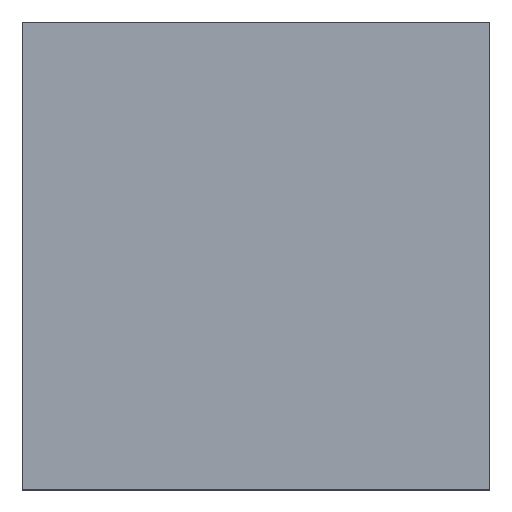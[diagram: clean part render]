
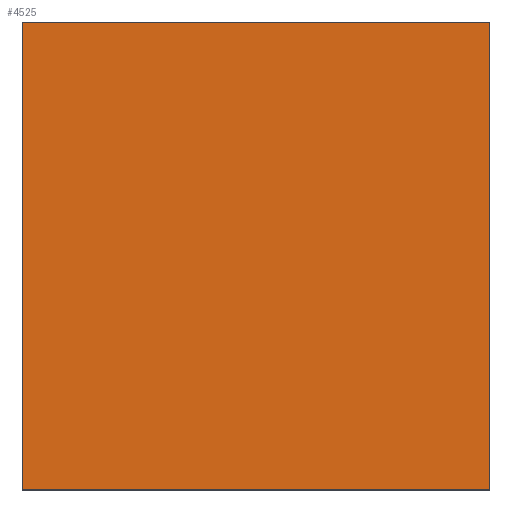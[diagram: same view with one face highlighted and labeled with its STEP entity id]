
A CAD part, top view. The second image highlights one B-rep face of the part: STEP entity #4525.
In plain terms, the highlighted planar face has unit normal (0, 0, 1).
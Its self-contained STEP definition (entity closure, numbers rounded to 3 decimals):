
#194=PLANE('',#4929);
#436=FACE_OUTER_BOUND('',#720,.T.);
#720=EDGE_LOOP('',(#3710,#3711,#3712,#3713));
#1109=LINE('',#7279,#1527);
#1111=LINE('',#7283,#1529);
#1113=LINE('',#7287,#1531);
#1115=LINE('',#7290,#1533);
#1527=VECTOR('',#6044,1030.);
#1529=VECTOR('',#6048,1030.);
#1531=VECTOR('',#6052,1030.);
#1533=VECTOR('',#6056,1030.);
#2072=VERTEX_POINT('',#7276);
#2073=VERTEX_POINT('',#7278);
#2074=VERTEX_POINT('',#7282);
#2075=VERTEX_POINT('',#7286);
#2625=EDGE_CURVE('',#2073,#2072,#1109,.T.);
#2627=EDGE_CURVE('',#2074,#2073,#1111,.T.);
#2629=EDGE_CURVE('',#2075,#2074,#1113,.T.);
#2631=EDGE_CURVE('',#2072,#2075,#1115,.T.);
#3710=ORIENTED_EDGE('',*,*,#2631,.T.);
#3711=ORIENTED_EDGE('',*,*,#2629,.T.);
#3712=ORIENTED_EDGE('',*,*,#2627,.T.);
#3713=ORIENTED_EDGE('',*,*,#2625,.T.);
#4525=ADVANCED_FACE('',(#436),#194,.T.);
#4929=AXIS2_PLACEMENT_3D('',#7289,#6054,#6055);
#6044=DIRECTION('',(0.,1.,0.));
#6048=DIRECTION('',(1.,0.,0.));
#6052=DIRECTION('',(0.,-1.,0.));
#6054=DIRECTION('center_axis',(0.,0.,1.));
#6055=DIRECTION('ref_axis',(-1.,0.,0.));
#6056=DIRECTION('',(-1.,0.,0.));
#7276=CARTESIAN_POINT('',(515.,515.,4.));
#7278=CARTESIAN_POINT('',(515.,-515.,4.));
#7279=CARTESIAN_POINT('',(515.,-515.,4.));
#7282=CARTESIAN_POINT('',(-515.,-515.,4.));
#7283=CARTESIAN_POINT('',(-515.,-515.,4.));
#7286=CARTESIAN_POINT('',(-515.,515.,4.));
#7287=CARTESIAN_POINT('',(-515.,515.,4.));
#7289=CARTESIAN_POINT('Origin',(0.,0.,4.));
#7290=CARTESIAN_POINT('',(515.,515.,4.));
